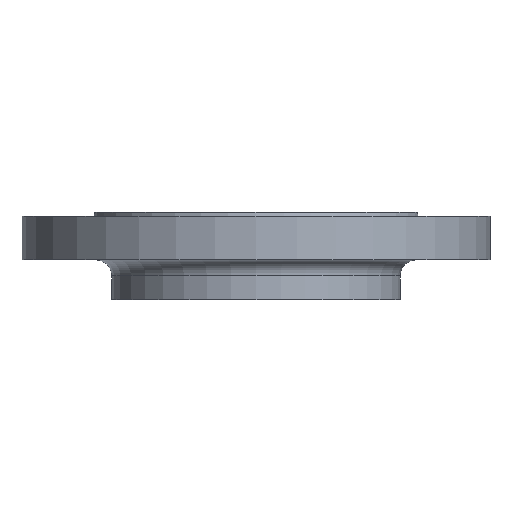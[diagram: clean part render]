
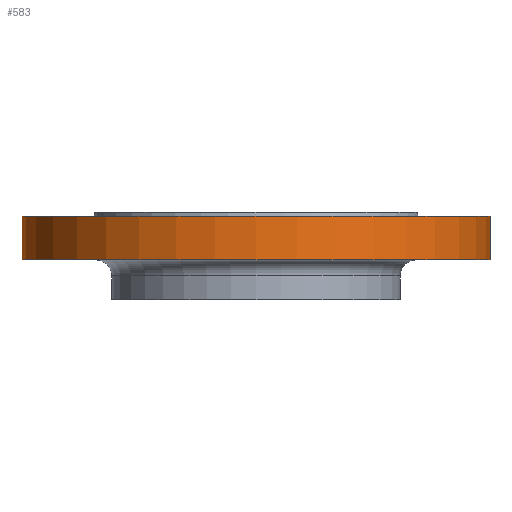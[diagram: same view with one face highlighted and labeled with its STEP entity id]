
A CAD part, front view. The second image highlights one B-rep face of the part: STEP entity #583.
In plain terms, the highlighted cylindrical face has radius 117.5 mm (diameter 235 mm), a partial arc.
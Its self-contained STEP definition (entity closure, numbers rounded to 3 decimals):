
#2 = DIRECTION ( 'NONE',  ( 1., 0., 0. ) ) ;
#3 = DIRECTION ( 'NONE',  ( 0., 0., 1. ) ) ;
#13 = CARTESIAN_POINT ( 'NONE',  ( 0., 0., -24. ) ) ;
#33 = DIRECTION ( 'NONE',  ( -1., 0., 0. ) ) ;
#34 = DIRECTION ( 'NONE',  ( 0., 0., -1. ) ) ;
#36 = CARTESIAN_POINT ( 'NONE',  ( 0., 0., -2. ) ) ;
#136 = DIRECTION ( 'NONE',  ( 0., 0., 1. ) ) ;
#181 = CARTESIAN_POINT ( 'NONE',  ( -117.5, 0., -2. ) ) ;
#230 = CIRCLE ( 'NONE', #883, 117.5 ) ;
#327 = CIRCLE ( 'NONE', #1077, 117.5 ) ;
#366 = DIRECTION ( 'NONE',  ( 1., 0., 0. ) ) ;
#367 = DIRECTION ( 'NONE',  ( 0., 0., 1. ) ) ;
#369 = CARTESIAN_POINT ( 'NONE',  ( 0., 0., -75. ) ) ;
#370 = CYLINDRICAL_SURFACE ( 'NONE', #481, 117.5 ) ;
#371 = FACE_OUTER_BOUND ( 'NONE', #706, .T. ) ;
#397 = EDGE_CURVE ( 'NONE', #1079, #918, #498, .T. ) ;
#481 = AXIS2_PLACEMENT_3D ( 'NONE', #369, #367, #366 ) ;
#490 = CARTESIAN_POINT ( 'NONE',  ( 117.5, 0., -75. ) ) ;
#495 = DIRECTION ( 'NONE',  ( 0., 0., 1. ) ) ;
#498 = LINE ( 'NONE', #490, #1024 ) ;
#583 = ADVANCED_FACE ( 'NONE', ( #371 ), #370, .T. ) ;
#631 = VECTOR ( 'NONE', #136, 1000. ) ;
#636 = LINE ( 'NONE', #862, #631 ) ;
#706 = EDGE_LOOP ( 'NONE', ( #1041, #1043, #1044, #1045 ) ) ;
#736 = VERTEX_POINT ( 'NONE', #181 ) ;
#769 = CARTESIAN_POINT ( 'NONE',  ( -117.5, 0., -24. ) ) ;
#840 = CARTESIAN_POINT ( 'NONE',  ( 117.5, 0., -24. ) ) ;
#862 = CARTESIAN_POINT ( 'NONE',  ( -117.5, 0., -75. ) ) ;
#883 = AXIS2_PLACEMENT_3D ( 'NONE', #36, #34, #33 ) ;
#887 = EDGE_CURVE ( 'NONE', #918, #736, #230, .T. ) ;
#901 = EDGE_CURVE ( 'NONE', #925, #1079, #327, .T. ) ;
#918 = VERTEX_POINT ( 'NONE', #1163 ) ;
#925 = VERTEX_POINT ( 'NONE', #769 ) ;
#959 = EDGE_CURVE ( 'NONE', #925, #736, #636, .T. ) ;
#1024 = VECTOR ( 'NONE', #495, 1000. ) ;
#1041 = ORIENTED_EDGE ( 'NONE', *, *, #959, .F. ) ;
#1043 = ORIENTED_EDGE ( 'NONE', *, *, #901, .T. ) ;
#1044 = ORIENTED_EDGE ( 'NONE', *, *, #397, .T. ) ;
#1045 = ORIENTED_EDGE ( 'NONE', *, *, #887, .T. ) ;
#1077 = AXIS2_PLACEMENT_3D ( 'NONE', #13, #3, #2 ) ;
#1079 = VERTEX_POINT ( 'NONE', #840 ) ;
#1163 = CARTESIAN_POINT ( 'NONE',  ( 117.5, 0., -2. ) ) ;
